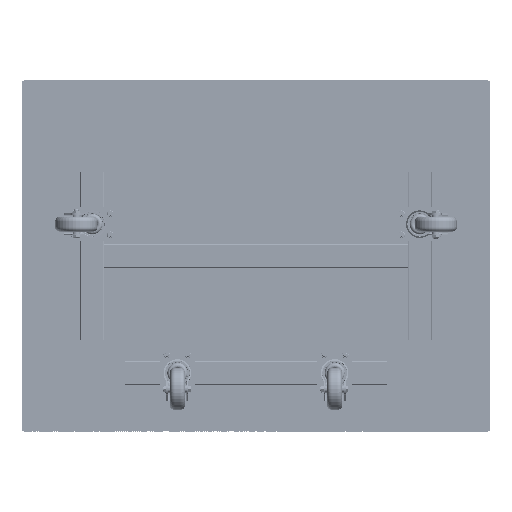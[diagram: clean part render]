
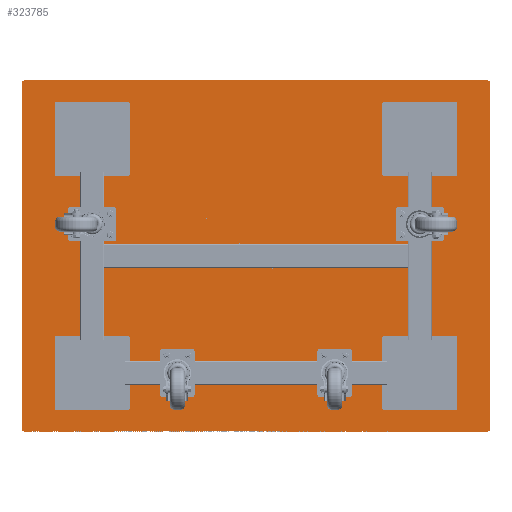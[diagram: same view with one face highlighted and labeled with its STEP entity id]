
A CAD part, front view. The second image highlights one B-rep face of the part: STEP entity #323785.
In plain terms, the highlighted planar face has unit normal (0, -1, 0).
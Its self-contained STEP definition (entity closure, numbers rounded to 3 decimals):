
#2811 = LINE ( 'NONE', #315831, #192703 ) ;
#9720 = LINE ( 'NONE', #272062, #207668 ) ;
#10659 = VERTEX_POINT ( 'NONE', #139969 ) ;
#14558 = VERTEX_POINT ( 'NONE', #283636 ) ;
#25350 = ORIENTED_EDGE ( 'NONE', *, *, #264847, .F. ) ;
#35299 = PLANE ( 'NONE',  #164696 ) ;
#48268 = VECTOR ( 'NONE', #149502, 1000. ) ;
#54226 = CARTESIAN_POINT ( 'NONE',  ( 500., 700., -370. ) ) ;
#61315 = DIRECTION ( 'NONE',  ( -1., 0., 0. ) ) ;
#80396 = CIRCLE ( 'NONE', #105963, 5. ) ;
#83919 = EDGE_CURVE ( 'NONE', #117564, #10659, #2811, .T. ) ;
#94491 = AXIS2_PLACEMENT_3D ( 'NONE', #107085, #287514, #132968 ) ;
#95867 = EDGE_CURVE ( 'NONE', #137452, #196028, #305388, .T. ) ;
#99332 = CARTESIAN_POINT ( 'NONE',  ( 495., 700., -370. ) ) ;
#100851 = LINE ( 'NONE', #147609, #169519 ) ;
#105963 = AXIS2_PLACEMENT_3D ( 'NONE', #282790, #128286, #308776 ) ;
#107085 = CARTESIAN_POINT ( 'NONE',  ( -495., 700., 370. ) ) ;
#108135 = VERTEX_POINT ( 'NONE', #159019 ) ;
#109439 = DIRECTION ( 'NONE',  ( -1., 0., 0. ) ) ;
#110693 = DIRECTION ( 'NONE',  ( 0., 1., 0. ) ) ;
#111240 = ORIENTED_EDGE ( 'NONE', *, *, #208852, .F. ) ;
#117564 = VERTEX_POINT ( 'NONE', #228583 ) ;
#119043 = ORIENTED_EDGE ( 'NONE', *, *, #288129, .F. ) ;
#123583 = CARTESIAN_POINT ( 'NONE',  ( 500., 700., 370. ) ) ;
#124720 = ORIENTED_EDGE ( 'NONE', *, *, #83919, .F. ) ;
#125332 = DIRECTION ( 'NONE',  ( -1., 0., 0. ) ) ;
#127609 = ORIENTED_EDGE ( 'NONE', *, *, #303658, .F. ) ;
#128286 = DIRECTION ( 'NONE',  ( 0., 1., 0. ) ) ;
#130841 = FACE_OUTER_BOUND ( 'NONE', #263929, .T. ) ;
#132968 = DIRECTION ( 'NONE',  ( -1., 0., 0. ) ) ;
#137452 = VERTEX_POINT ( 'NONE', #277943 ) ;
#139969 = CARTESIAN_POINT ( 'NONE',  ( -495., 700., -375. ) ) ;
#142315 = DIRECTION ( 'NONE',  ( 1., 0., 0. ) ) ;
#147609 = CARTESIAN_POINT ( 'NONE',  ( -500., 700., 370. ) ) ;
#149502 = DIRECTION ( 'NONE',  ( 0., 0., -1. ) ) ;
#159019 = CARTESIAN_POINT ( 'NONE',  ( -500., 700., 370. ) ) ;
#164696 = AXIS2_PLACEMENT_3D ( 'NONE', #292580, #215826, #61315 ) ;
#169519 = VECTOR ( 'NONE', #328127, 1000. ) ;
#187820 = CARTESIAN_POINT ( 'NONE',  ( -500., 700., -370. ) ) ;
#192703 = VECTOR ( 'NONE', #109439, 1000. ) ;
#196028 = VERTEX_POINT ( 'NONE', #252402 ) ;
#200276 = AXIS2_PLACEMENT_3D ( 'NONE', #99332, #279856, #125332 ) ;
#200279 = CIRCLE ( 'NONE', #200276, 5. ) ;
#201732 = CIRCLE ( 'NONE', #94491, 5. ) ;
#207668 = VECTOR ( 'NONE', #142315, 1000. ) ;
#208852 = EDGE_CURVE ( 'NONE', #108135, #14558, #201732, .T. ) ;
#215826 = DIRECTION ( 'NONE',  ( 0., -1., 0. ) ) ;
#219900 = EDGE_CURVE ( 'NONE', #14558, #137452, #9720, .T. ) ;
#228583 = CARTESIAN_POINT ( 'NONE',  ( 495., 700., -375. ) ) ;
#246086 = LINE ( 'NONE', #123583, #48268 ) ;
#246732 = ORIENTED_EDGE ( 'NONE', *, *, #272390, .F. ) ;
#252402 = CARTESIAN_POINT ( 'NONE',  ( 500., 700., 370. ) ) ;
#254486 = ORIENTED_EDGE ( 'NONE', *, *, #95867, .F. ) ;
#256127 = AXIS2_PLACEMENT_3D ( 'NONE', #265192, #110693, #291109 ) ;
#263929 = EDGE_LOOP ( 'NONE', ( #119043, #25350, #254486, #264167, #111240, #127609, #246732, #124720 ) ) ;
#264167 = ORIENTED_EDGE ( 'NONE', *, *, #219900, .F. ) ;
#264847 = EDGE_CURVE ( 'NONE', #196028, #335145, #246086, .T. ) ;
#265192 = CARTESIAN_POINT ( 'NONE',  ( 495., 700., 370. ) ) ;
#272062 = CARTESIAN_POINT ( 'NONE',  ( -495., 700., 375. ) ) ;
#272390 = EDGE_CURVE ( 'NONE', #10659, #299251, #80396, .T. ) ;
#277943 = CARTESIAN_POINT ( 'NONE',  ( 495., 700., 375. ) ) ;
#279856 = DIRECTION ( 'NONE',  ( 0., 1., 0. ) ) ;
#282790 = CARTESIAN_POINT ( 'NONE',  ( -495., 700., -370. ) ) ;
#283636 = CARTESIAN_POINT ( 'NONE',  ( -495., 700., 375. ) ) ;
#287514 = DIRECTION ( 'NONE',  ( 0., 1., 0. ) ) ;
#288129 = EDGE_CURVE ( 'NONE', #335145, #117564, #200279, .T. ) ;
#291109 = DIRECTION ( 'NONE',  ( 1., 0., 0. ) ) ;
#292580 = CARTESIAN_POINT ( 'NONE',  ( 495., 700., -370. ) ) ;
#299251 = VERTEX_POINT ( 'NONE', #187820 ) ;
#303658 = EDGE_CURVE ( 'NONE', #299251, #108135, #100851, .T. ) ;
#305388 = CIRCLE ( 'NONE', #256127, 5. ) ;
#308776 = DIRECTION ( 'NONE',  ( -1., 0., 0. ) ) ;
#315831 = CARTESIAN_POINT ( 'NONE',  ( -495., 700., -375. ) ) ;
#323785 = ADVANCED_FACE ( 'NONE', ( #130841 ), #35299, .T. ) ;
#328127 = DIRECTION ( 'NONE',  ( 0., 0., 1. ) ) ;
#335145 = VERTEX_POINT ( 'NONE', #54226 ) ;
